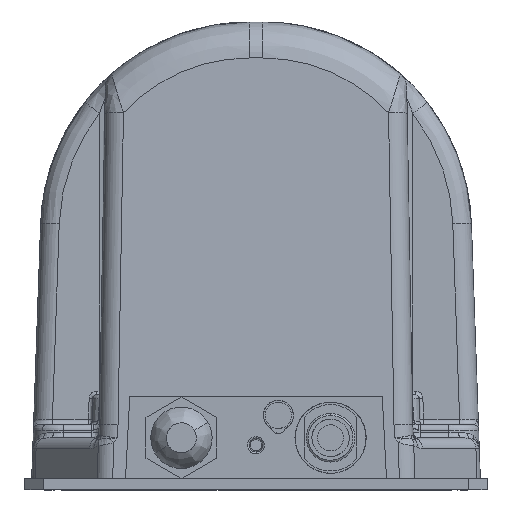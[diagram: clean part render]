
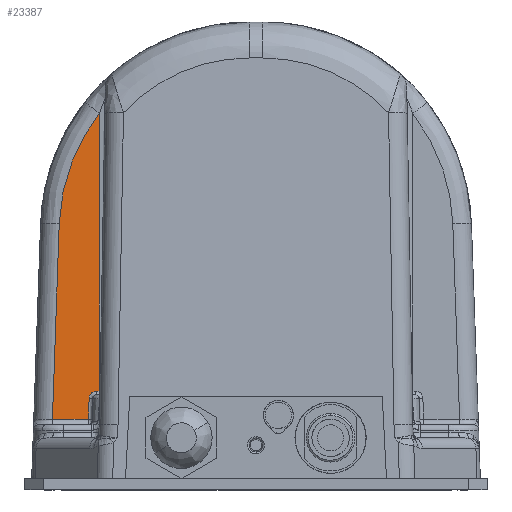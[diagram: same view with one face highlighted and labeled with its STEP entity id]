
A CAD part, front view. The second image highlights one B-rep face of the part: STEP entity #23387.
In plain terms, the highlighted planar face has unit normal (0, -1, 0.018).
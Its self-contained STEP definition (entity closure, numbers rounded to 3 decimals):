
#13870 = CARTESIAN_POINT ( 'NONE',  ( -52.77, -38.06, 63.867 ) ) ;
#14724 = LINE ( 'NONE', #14804, #14803 ) ;
#14802 = DIRECTION ( 'NONE',  ( -0.035, -0.017, -0.999 ) ) ;
#14803 = VECTOR ( 'NONE', #14802, 1000. ) ;
#14804 = CARTESIAN_POINT ( 'NONE',  ( -53.692, -38.521, 37.443 ) ) ;
#14922 = CARTESIAN_POINT ( 'NONE',  ( -42., -37.543, 93.472 ) ) ;
#14923 = CARTESIAN_POINT ( 'NONE',  ( -43.642, -37.58, 91.369 ) ) ;
#14924 = CARTESIAN_POINT ( 'NONE',  ( -45.119, -37.619, 89.136 ) ) ;
#14925 = CARTESIAN_POINT ( 'NONE',  ( -47.706, -37.7, 84.467 ) ) ;
#14926 = CARTESIAN_POINT ( 'NONE',  ( -48.816, -37.743, 82.03 ) ) ;
#14927 = CARTESIAN_POINT ( 'NONE',  ( -50.64, -37.83, 77.014 ) ) ;
#14928 = CARTESIAN_POINT ( 'NONE',  ( -51.356, -37.875, 74.434 ) ) ;
#14944 = CARTESIAN_POINT ( 'NONE',  ( -52.77, -38.06, 63.867 ) ) ;
#14960 = B_SPLINE_CURVE_WITH_KNOTS ( 'NONE', 3,
 ( #14944, #15015, #15014, #14928, #14927, #14926, #14925, #14924, #14923, #14922 ),
 .UNSPECIFIED., .F., .F.,
 ( 4, 2, 2, 2, 4 ),
 ( 0., 0.25, 0.5, 0.75, 1. ),
 .UNSPECIFIED. ) ;
#15014 = CARTESIAN_POINT ( 'NONE',  ( -52.374, -37.967, 69.194 ) ) ;
#15015 = CARTESIAN_POINT ( 'NONE',  ( -52.677, -38.013, 66.534 ) ) ;
#15115 = DIRECTION ( 'NONE',  ( 0., 0.017, 1. ) ) ;
#15116 = DIRECTION ( 'NONE',  ( 0., 1., -0.017 ) ) ;
#15117 = CARTESIAN_POINT ( 'NONE',  ( -54.675, -38.974, 11.474 ) ) ;
#15118 = AXIS2_PLACEMENT_3D ( 'NONE', #15117, #15116, #15115 ) ;
#15123 = FACE_OUTER_BOUND ( 'NONE', #23392, .T. ) ;
#15124 = PLANE ( 'NONE',  #15118 ) ;
#18046 = CARTESIAN_POINT ( 'NONE',  ( -44.948, -38.974, 11.474 ) ) ;
#21054 = VERTEX_POINT ( 'NONE', #40492 ) ;
#21055 = VERTEX_POINT ( 'NONE', #40491 ) ;
#21065 = EDGE_CURVE ( 'NONE', #26512, #21054, #40458, .T. ) ;
#21069 = EDGE_CURVE ( 'NONE', #21055, #28672, #40573, .T. ) ;
#21078 = EDGE_CURVE ( 'NONE', #21054, #21055, #40558, .T. ) ;
#21086 = EDGE_CURVE ( 'NONE', #28672, #21091, #40619, .T. ) ;
#21091 = VERTEX_POINT ( 'NONE', #40687 ) ;
#23233 = ORIENTED_EDGE ( 'NONE', *, *, #21086, .F. ) ;
#23293 = ORIENTED_EDGE ( 'NONE', *, *, #26377, .F. ) ;
#23294 = VERTEX_POINT ( 'NONE', #13870 ) ;
#23309 = ORIENTED_EDGE ( 'NONE', *, *, #21069, .F. ) ;
#23310 = ORIENTED_EDGE ( 'NONE', *, *, #21078, .F. ) ;
#23353 = EDGE_CURVE ( 'NONE', #23294, #21091, #14724, .T. ) ;
#23387 = ADVANCED_FACE ( 'NONE', ( #15123 ), #15124, .F. ) ;
#23388 = ORIENTED_EDGE ( 'NONE', *, *, #21065, .F. ) ;
#23389 = EDGE_CURVE ( 'NONE', #23294, #26497, #14960, .T. ) ;
#23390 = ORIENTED_EDGE ( 'NONE', *, *, #23389, .F. ) ;
#23391 = ORIENTED_EDGE ( 'NONE', *, *, #23353, .T. ) ;
#23392 = EDGE_LOOP ( 'NONE', ( #23309, #23310, #23388, #23293, #23390, #23391, #23233 ) ) ;
#26377 = EDGE_CURVE ( 'NONE', #26497, #26512, #34863, .T. ) ;
#26497 = VERTEX_POINT ( 'NONE', #35625 ) ;
#26512 = VERTEX_POINT ( 'NONE', #36063 ) ;
#28672 = VERTEX_POINT ( 'NONE', #18046 ) ;
#34863 = LINE ( 'NONE', #34865, #34867 ) ;
#34865 = CARTESIAN_POINT ( 'NONE',  ( -42., -38.254, 52.719 ) ) ;
#34866 = DIRECTION ( 'NONE',  ( 0., -0.017, -1. ) ) ;
#34867 = VECTOR ( 'NONE', #34866, 1000. ) ;
#35625 = CARTESIAN_POINT ( 'NONE',  ( -42., -37.543, 93.472 ) ) ;
#36063 = CARTESIAN_POINT ( 'NONE',  ( -42., -38.843, 18.983 ) ) ;
#40410 = DIRECTION ( 'NONE',  ( -1., 0., 0. ) ) ;
#40411 = CARTESIAN_POINT ( 'NONE',  ( -48.337, -38.843, 18.983 ) ) ;
#40453 = VECTOR ( 'NONE', #40410, 1000. ) ;
#40458 = LINE ( 'NONE', #40411, #40453 ) ;
#40491 = CARTESIAN_POINT ( 'NONE',  ( -44.752, -38.877, 17.052 ) ) ;
#40492 = CARTESIAN_POINT ( 'NONE',  ( -42.75, -38.843, 18.983 ) ) ;
#40518 = CARTESIAN_POINT ( 'NONE',  ( -43.007, -38.843, 18.97 ) ) ;
#40519 = CARTESIAN_POINT ( 'NONE',  ( -42.88, -38.843, 18.983 ) ) ;
#40520 = CARTESIAN_POINT ( 'NONE',  ( -42.75, -38.843, 18.983 ) ) ;
#40558 = B_SPLINE_CURVE_WITH_KNOTS ( 'NONE', 3,
 ( #40520, #40519, #40518, #40606, #40604, #40602, #40600, #40598, #40596, #40594, #40592, #40590, #40588, #40586, #40584, #40582, #40580, #40578, #40695, #40694, #40693, #40692, #40691, #40690, #40689, #40688 ),
 .UNSPECIFIED., .F., .F.,
 ( 4, 2, 2, 2, 2, 2, 2, 2, 2, 2, 2, 2, 4 ),
 ( 0., 0.125, 0.188, 0.25, 0.375, 0.438, 0.5, 0.625, 0.688, 0.75, 0.875, 0.938, 1. ),
 .UNSPECIFIED. ) ;
#40566 = CARTESIAN_POINT ( 'NONE',  ( -44.948, -38.974, 11.474 ) ) ;
#40567 = CARTESIAN_POINT ( 'NONE',  ( -44.883, -38.942, 13.333 ) ) ;
#40568 = CARTESIAN_POINT ( 'NONE',  ( -44.818, -38.909, 15.193 ) ) ;
#40570 = CARTESIAN_POINT ( 'NONE',  ( -44.752, -38.877, 17.052 ) ) ;
#40573 = B_SPLINE_CURVE_WITH_KNOTS ( 'NONE', 3,
 ( #40570, #40568, #40567, #40566 ),
 .UNSPECIFIED., .F., .F.,
 ( 4, 4 ),
 ( 0., 1. ),
 .UNSPECIFIED. ) ;
#40578 = CARTESIAN_POINT ( 'NONE',  ( -44.524, -38.862, 17.913 ) ) ;
#40580 = CARTESIAN_POINT ( 'NONE',  ( -44.461, -38.86, 18.025 ) ) ;
#40582 = CARTESIAN_POINT ( 'NONE',  ( -44.426, -38.859, 18.08 ) ) ;
#40584 = CARTESIAN_POINT ( 'NONE',  ( -44.316, -38.856, 18.237 ) ) ;
#40586 = CARTESIAN_POINT ( 'NONE',  ( -44.233, -38.855, 18.333 ) ) ;
#40588 = CARTESIAN_POINT ( 'NONE',  ( -44.095, -38.852, 18.467 ) ) ;
#40590 = CARTESIAN_POINT ( 'NONE',  ( -44.046, -38.851, 18.509 ) ) ;
#40592 = CARTESIAN_POINT ( 'NONE',  ( -43.945, -38.85, 18.589 ) ) ;
#40594 = CARTESIAN_POINT ( 'NONE',  ( -43.893, -38.849, 18.626 ) ) ;
#40596 = CARTESIAN_POINT ( 'NONE',  ( -43.732, -38.848, 18.73 ) ) ;
#40598 = CARTESIAN_POINT ( 'NONE',  ( -43.619, -38.847, 18.789 ) ) ;
#40600 = CARTESIAN_POINT ( 'NONE',  ( -43.44, -38.845, 18.861 ) ) ;
#40602 = CARTESIAN_POINT ( 'NONE',  ( -43.379, -38.845, 18.883 ) ) ;
#40604 = CARTESIAN_POINT ( 'NONE',  ( -43.256, -38.844, 18.919 ) ) ;
#40606 = CARTESIAN_POINT ( 'NONE',  ( -43.194, -38.844, 18.934 ) ) ;
#40614 = DIRECTION ( 'NONE',  ( -1., 0., 0. ) ) ;
#40615 = VECTOR ( 'NONE', #40614, 1000. ) ;
#40617 = CARTESIAN_POINT ( 'NONE',  ( -48.337, -38.974, 11.474 ) ) ;
#40619 = LINE ( 'NONE', #40617, #40615 ) ;
#40687 = CARTESIAN_POINT ( 'NONE',  ( -54.599, -38.974, 11.474 ) ) ;
#40688 = CARTESIAN_POINT ( 'NONE',  ( -44.752, -38.877, 17.052 ) ) ;
#40689 = CARTESIAN_POINT ( 'NONE',  ( -44.75, -38.876, 17.117 ) ) ;
#40690 = CARTESIAN_POINT ( 'NONE',  ( -44.744, -38.875, 17.181 ) ) ;
#40691 = CARTESIAN_POINT ( 'NONE',  ( -44.727, -38.872, 17.309 ) ) ;
#40692 = CARTESIAN_POINT ( 'NONE',  ( -44.716, -38.871, 17.372 ) ) ;
#40693 = CARTESIAN_POINT ( 'NONE',  ( -44.672, -38.868, 17.561 ) ) ;
#40694 = CARTESIAN_POINT ( 'NONE',  ( -44.631, -38.866, 17.681 ) ) ;
#40695 = CARTESIAN_POINT ( 'NONE',  ( -44.553, -38.863, 17.856 ) ) ;
